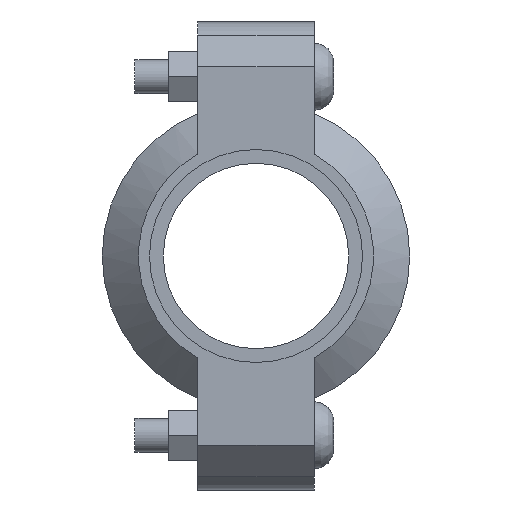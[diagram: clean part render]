
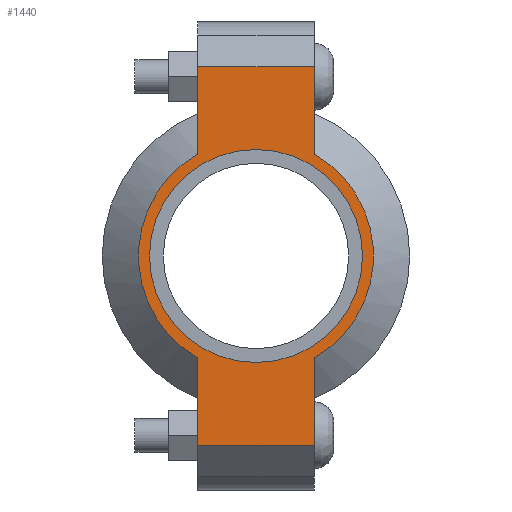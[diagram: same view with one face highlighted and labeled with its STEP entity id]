
A CAD part, left-side view. The second image highlights one B-rep face of the part: STEP entity #1440.
In plain terms, the highlighted planar face has unit normal (-1, 0, 0) as drawn and (0, 0, 1) by its records, which use the part's own axes.
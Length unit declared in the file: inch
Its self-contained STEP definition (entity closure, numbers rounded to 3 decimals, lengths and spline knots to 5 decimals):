
#120=LINE('',#2497,#211);
#128=LINE('',#2533,#219);
#135=LINE('',#2554,#226);
#144=LINE('',#2586,#235);
#145=LINE('',#2590,#236);
#146=LINE('',#2592,#237);
#211=VECTOR('',#2027,0.3937);
#219=VECTOR('',#2043,0.3937);
#226=VECTOR('',#2062,0.3937);
#235=VECTOR('',#2087,0.3937);
#236=VECTOR('',#2092,0.3937);
#237=VECTOR('',#2093,0.3937);
#289=FACE_BOUND('',#449,.T.);
#353=FACE_OUTER_BOUND('',#448,.T.);
#448=EDGE_LOOP('',(#1175,#1176,#1177,#1178,#1179,#1180,#1181,#1182));
#449=EDGE_LOOP('',(#1183));
#546=CIRCLE('',#1701,1.31);
#547=CIRCLE('',#1702,1.31);
#548=CIRCLE('',#1703,1.1875);
#651=VERTEX_POINT('',#2494);
#652=VERTEX_POINT('',#2496);
#663=VERTEX_POINT('',#2528);
#664=VERTEX_POINT('',#2532);
#671=VERTEX_POINT('',#2551);
#672=VERTEX_POINT('',#2553);
#682=VERTEX_POINT('',#2589);
#683=VERTEX_POINT('',#2591);
#684=VERTEX_POINT('',#2594);
#815=EDGE_CURVE('',#652,#651,#120,.T.);
#829=EDGE_CURVE('',#664,#663,#128,.T.);
#839=EDGE_CURVE('',#672,#671,#135,.T.);
#854=EDGE_CURVE('',#664,#651,#144,.T.);
#855=EDGE_CURVE('',#663,#672,#546,.T.);
#856=EDGE_CURVE('',#682,#671,#145,.T.);
#857=EDGE_CURVE('',#682,#683,#146,.T.);
#858=EDGE_CURVE('',#683,#652,#547,.T.);
#859=EDGE_CURVE('',#684,#684,#548,.T.);
#1175=ORIENTED_EDGE('',*,*,#854,.F.);
#1176=ORIENTED_EDGE('',*,*,#829,.T.);
#1177=ORIENTED_EDGE('',*,*,#855,.T.);
#1178=ORIENTED_EDGE('',*,*,#839,.T.);
#1179=ORIENTED_EDGE('',*,*,#856,.F.);
#1180=ORIENTED_EDGE('',*,*,#857,.T.);
#1181=ORIENTED_EDGE('',*,*,#858,.T.);
#1182=ORIENTED_EDGE('',*,*,#815,.T.);
#1183=ORIENTED_EDGE('',*,*,#859,.T.);
#1294=PLANE('',#1700);
#1440=ADVANCED_FACE('',(#353,#289),#1294,.T.);
#1700=AXIS2_PLACEMENT_3D('',#2587,#2088,#2089);
#1701=AXIS2_PLACEMENT_3D('',#2588,#2090,#2091);
#1702=AXIS2_PLACEMENT_3D('',#2593,#2094,#2095);
#1703=AXIS2_PLACEMENT_3D('',#2595,#2096,#2097);
#2027=DIRECTION('',(1.,0.,0.));
#2043=DIRECTION('',(-1.,0.,0.));
#2062=DIRECTION('',(-1.,0.,0.));
#2087=DIRECTION('',(0.,-1.,0.));
#2088=DIRECTION('center_axis',(0.,0.,1.));
#2089=DIRECTION('ref_axis',(-1.,0.,0.));
#2090=DIRECTION('center_axis',(0.,0.,1.));
#2091=DIRECTION('ref_axis',(1.,0.,0.));
#2092=DIRECTION('',(0.,1.,0.));
#2093=DIRECTION('',(1.,0.,0.));
#2094=DIRECTION('center_axis',(0.,0.,1.));
#2095=DIRECTION('ref_axis',(1.,0.,0.));
#2096=DIRECTION('center_axis',(0.,0.,-1.));
#2097=DIRECTION('ref_axis',(1.,0.,0.));
#2494=CARTESIAN_POINT('',(2.11,-0.65,0.94));
#2496=CARTESIAN_POINT('',(1.13737,-0.65,0.94));
#2497=CARTESIAN_POINT('',(2.61,-0.65,0.94));
#2528=CARTESIAN_POINT('',(1.13737,0.65,0.94));
#2532=CARTESIAN_POINT('',(2.11,0.65,0.94));
#2533=CARTESIAN_POINT('',(-2.61,0.65,0.94));
#2551=CARTESIAN_POINT('',(-2.11,0.65,0.94));
#2553=CARTESIAN_POINT('',(-1.13737,0.65,0.94));
#2554=CARTESIAN_POINT('',(-2.61,0.65,0.94));
#2586=CARTESIAN_POINT('',(2.11,-0.325,0.94));
#2587=CARTESIAN_POINT('Origin',(0.,0.,
0.94));
#2588=CARTESIAN_POINT('Origin',(0.,0.,0.94));
#2589=CARTESIAN_POINT('',(-2.11,-0.65,0.94));
#2590=CARTESIAN_POINT('',(-2.11,0.325,0.94));
#2591=CARTESIAN_POINT('',(-1.13737,-0.65,0.94));
#2592=CARTESIAN_POINT('',(2.61,-0.65,0.94));
#2593=CARTESIAN_POINT('Origin',(0.,0.,0.94));
#2594=CARTESIAN_POINT('',(-1.1875,0.,0.94));
#2595=CARTESIAN_POINT('Origin',(0.,0.,0.94));
